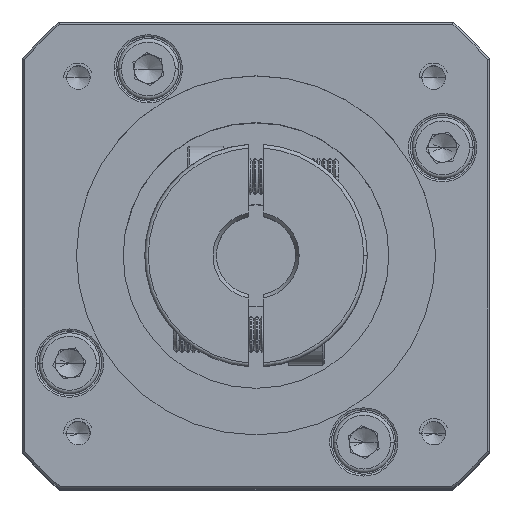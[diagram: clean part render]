
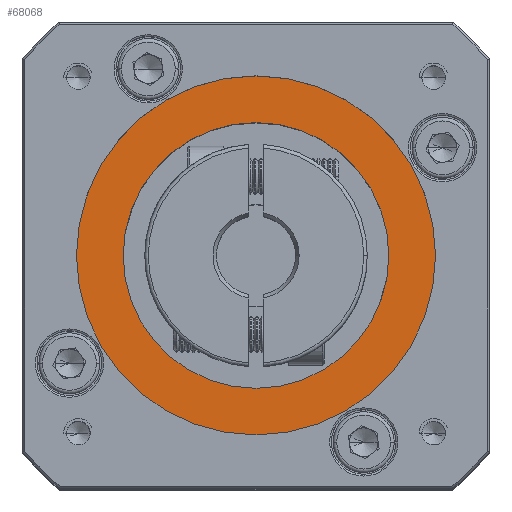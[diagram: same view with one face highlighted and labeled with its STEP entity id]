
A CAD part, top view. The second image highlights one B-rep face of the part: STEP entity #68068.
In plain terms, the highlighted planar face has unit normal (0, 0, 1).
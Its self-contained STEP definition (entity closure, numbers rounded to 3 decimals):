
#1106 = CARTESIAN_POINT ( 'NONE',  ( -24.543, 43.056, -2.01 ) ) ;
#9298 = DIRECTION ( 'NONE',  ( 1., 0., 0. ) ) ;
#10330 = DIRECTION ( 'NONE',  ( 0., 0., 1. ) ) ;
#10345 = AXIS2_PLACEMENT_3D ( 'NONE', #1106, #114461, #105317 ) ;
#14560 = CIRCLE ( 'NONE', #23824, 18.5 ) ;
#16901 = EDGE_CURVE ( 'NONE', #83092, #54855, #87006, .T. ) ;
#18479 = DIRECTION ( 'NONE',  ( 1., 0., 0. ) ) ;
#21744 = EDGE_LOOP ( 'NONE', ( #87708, #67656 ) ) ;
#22482 = VERTEX_POINT ( 'NONE', #86465 ) ;
#23824 = AXIS2_PLACEMENT_3D ( 'NONE', #123073, #75590, #18479 ) ;
#39012 = CARTESIAN_POINT ( 'NONE',  ( -43.043, 43.056, -2.01 ) ) ;
#39963 = DIRECTION ( 'NONE',  ( 0., 0., 1. ) ) ;
#41601 = CIRCLE ( 'NONE', #10345, 25. ) ;
#43517 = VERTEX_POINT ( 'NONE', #102624 ) ;
#43970 = AXIS2_PLACEMENT_3D ( 'NONE', #103515, #103089, #9298 ) ;
#50340 = CARTESIAN_POINT ( 'NONE',  ( -24.543, 43.056, -2.01 ) ) ;
#54855 = VERTEX_POINT ( 'NONE', #39012 ) ;
#63420 = EDGE_LOOP ( 'NONE', ( #121010, #109145 ) ) ;
#66949 = CARTESIAN_POINT ( 'NONE',  ( -24.543, 43.056, -2.01 ) ) ;
#67656 = ORIENTED_EDGE ( 'NONE', *, *, #89192, .T. ) ;
#68068 = ADVANCED_FACE ( 'NONE', ( #77138, #93548 ), #96192, .T. ) ;
#75590 = DIRECTION ( 'NONE',  ( 0., 0., -1. ) ) ;
#76609 = EDGE_CURVE ( 'NONE', #22482, #43517, #85553, .T. ) ;
#77138 = FACE_OUTER_BOUND ( 'NONE', #63420, .T. ) ;
#78002 = EDGE_CURVE ( 'NONE', #43517, #22482, #41601, .T. ) ;
#83092 = VERTEX_POINT ( 'NONE', #98491 ) ;
#85553 = CIRCLE ( 'NONE', #94619, 25. ) ;
#86465 = CARTESIAN_POINT ( 'NONE',  ( -49.543, 43.056, -2.01 ) ) ;
#87006 = CIRCLE ( 'NONE', #43970, 18.5 ) ;
#87708 = ORIENTED_EDGE ( 'NONE', *, *, #16901, .T. ) ;
#89192 = EDGE_CURVE ( 'NONE', #54855, #83092, #14560, .T. ) ;
#93548 = FACE_BOUND ( 'NONE', #21744, .T. ) ;
#94619 = AXIS2_PLACEMENT_3D ( 'NONE', #50340, #39963, #97565 ) ;
#96192 = PLANE ( 'NONE',  #107233 ) ;
#97565 = DIRECTION ( 'NONE',  ( 1., 0., 0. ) ) ;
#98491 = CARTESIAN_POINT ( 'NONE',  ( -6.043, 43.056, -2.01 ) ) ;
#102624 = CARTESIAN_POINT ( 'NONE',  ( 0.457, 43.056, -2.01 ) ) ;
#103089 = DIRECTION ( 'NONE',  ( 0., 0., -1. ) ) ;
#103515 = CARTESIAN_POINT ( 'NONE',  ( -24.543, 43.056, -2.01 ) ) ;
#105317 = DIRECTION ( 'NONE',  ( 1., 0., 0. ) ) ;
#107233 = AXIS2_PLACEMENT_3D ( 'NONE', #66949, #10330, #114926 ) ;
#109145 = ORIENTED_EDGE ( 'NONE', *, *, #76609, .T. ) ;
#114461 = DIRECTION ( 'NONE',  ( 0., 0., 1. ) ) ;
#114926 = DIRECTION ( 'NONE',  ( 1., 0., 0. ) ) ;
#121010 = ORIENTED_EDGE ( 'NONE', *, *, #78002, .T. ) ;
#123073 = CARTESIAN_POINT ( 'NONE',  ( -24.543, 43.056, -2.01 ) ) ;
